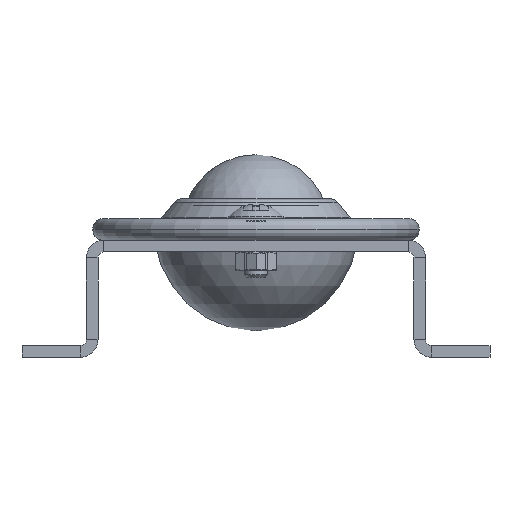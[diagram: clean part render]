
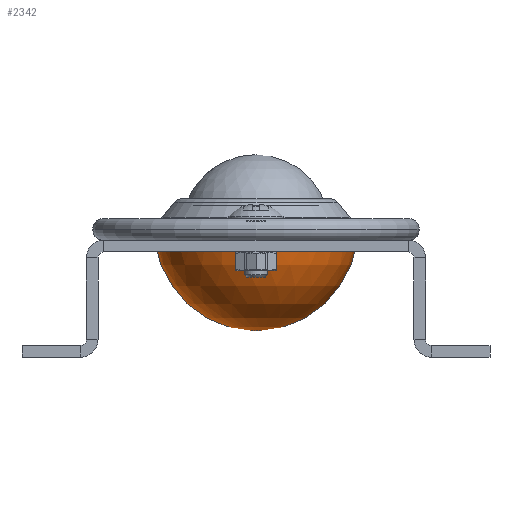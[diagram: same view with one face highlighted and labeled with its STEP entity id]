
A CAD part, front view. The second image highlights one B-rep face of the part: STEP entity #2342.
In plain terms, the highlighted spherical face has radius 17.4 mm.
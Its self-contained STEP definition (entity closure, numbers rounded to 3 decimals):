
#241=SPHERICAL_SURFACE('',#2583,17.4);
#635=FACE_BOUND('',#998,.T.);
#744=FACE_OUTER_BOUND('',#997,.T.);
#997=EDGE_LOOP('',(#1995));
#998=EDGE_LOOP('',(#1996));
#1183=CIRCLE('',#2581,0.75);
#1185=CIRCLE('',#2584,17.266);
#1353=VERTEX_POINT('',#3857);
#1355=VERTEX_POINT('',#3862);
#1583=EDGE_CURVE('',#1353,#1353,#1183,.T.);
#1585=EDGE_CURVE('',#1355,#1355,#1185,.T.);
#1995=ORIENTED_EDGE('',*,*,#1585,.F.);
#1996=ORIENTED_EDGE('',*,*,#1583,.T.);
#2342=ADVANCED_FACE('',(#744,#635),#241,.T.);
#2581=AXIS2_PLACEMENT_3D('',#3858,#3151,#3152);
#2583=AXIS2_PLACEMENT_3D('',#3861,#3155,#3156);
#2584=AXIS2_PLACEMENT_3D('',#3863,#3157,#3158);
#3151=DIRECTION('center_axis',(0.,0.,1.));
#3152=DIRECTION('ref_axis',(0.,-1.,0.));
#3155=DIRECTION('center_axis',(0.,0.,1.));
#3156=DIRECTION('ref_axis',(1.,0.,0.));
#3157=DIRECTION('center_axis',(0.,0.,1.));
#3158=DIRECTION('ref_axis',(0.,-1.,0.));
#3857=CARTESIAN_POINT('',(0.,-0.75,-15.484));
#3858=CARTESIAN_POINT('Origin',(0.,0.,-15.484));
#3861=CARTESIAN_POINT('Origin',(0.,0.,1.9));
#3862=CARTESIAN_POINT('',(0.,-17.266,-0.252));
#3863=CARTESIAN_POINT('Origin',(0.,0.,-0.252));
